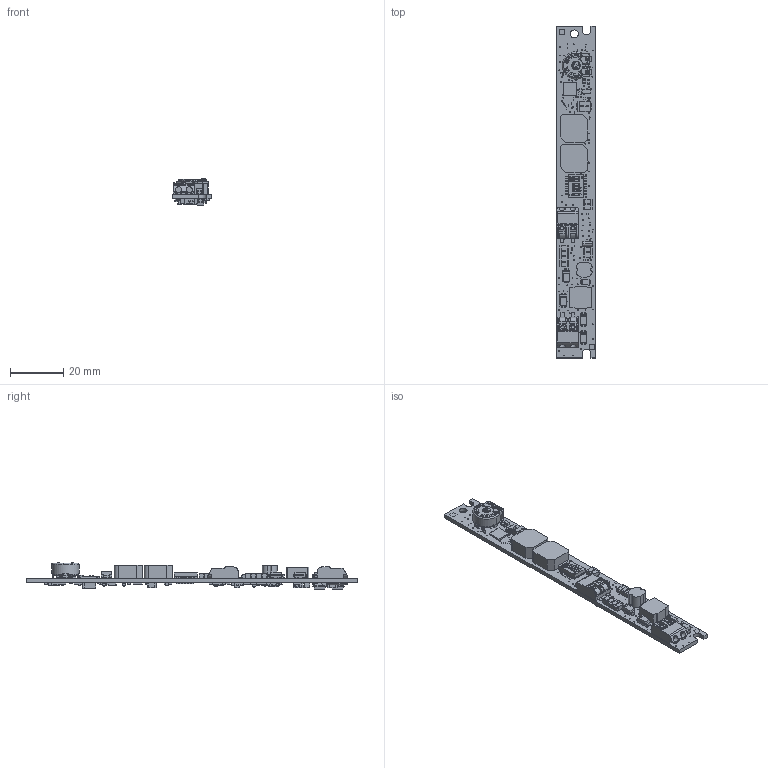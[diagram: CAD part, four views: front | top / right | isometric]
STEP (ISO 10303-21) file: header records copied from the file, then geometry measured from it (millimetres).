
FILE_DESCRIPTION((''),'2;1');
FILE_NAME('15009951Z_DATAMEC_125X14-8_FO','2015-11-18T',('juergen.hrach'),(''),'PRO/ENGINEER BY PARAMETRIC TECHNOLOGY CORPORATION, 2015200','PRO/ENGINEER BY PARAMETRIC TECHNOLOGY CORPORATION, 2015200','');
FILE_SCHEMA(('AUTOMOTIVE_DESIGN { 1 0 10303 214 1 1 1 1 }'));
Products named in the file (1): 15009951Z_DATAMEC_125X14-8_FO
Bounding box: 14.8 x 125 x 9.91 mm (x, y, z)
Volume: 91.6 mm3; surface area: 9150.1 mm2
Topology: 4 solids, 801 shells, 3540 faces, 10887 edges, 8043 vertices
Faces by surface type: bspline 2602, revolution 938
Entity records: 200483 total; most frequent: CARTESIAN_POINT 73354, ORIENTED_EDGE 17355, PRESENTATION_STYLE_ASSIGNMENT 11812, DIRECTION 11623, STYLED_ITEM 11373, EDGE_CURVE 10868, CURVE_STYLE 10412, VERTEX_POINT 8037
